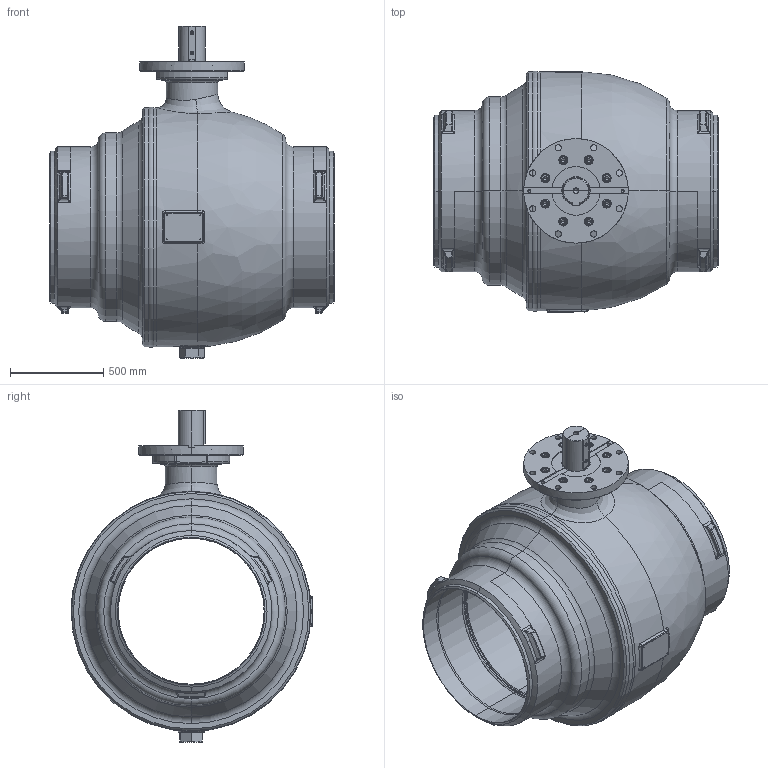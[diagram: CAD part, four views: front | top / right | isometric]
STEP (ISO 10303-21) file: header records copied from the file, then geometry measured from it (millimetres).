
FILE_DESCRIPTION((''),'2;1');
FILE_NAME('KHSVI_800_VVS_FR_WE','2026-01-27T14:14:33',('schwaba'),('KLINGER'),'CREO PARAMETRIC BY PTC INC, 2023014','CREO PARAMETRIC BY PTC INC, 2023014','');
FILE_SCHEMA(('CONFIG_CONTROL_DESIGN'));
Length unit declared in the file: millimetre
Products named in the file (1): KHSVI_800_VVS_FR_WE
Bounding box: 1524 x 1295.14 x 1778.5 mm (x, y, z)
Volume: 469679466.8 mm3; surface area: 22303524.8 mm2
Topology: 2 solids, 9 shells, 1893 faces, 4656 edges, 2840 vertices
Faces by surface type: plane 771, cylinder 414, torus 257, bspline 217, cone 192, sphere 42
Entity records: 113001 total; most frequent: CARTESIAN_POINT 70713, ORIENTED_EDGE 9216, DIRECTION 8350, EDGE_CURVE 4608, AXIS2_PLACEMENT_3D 3455, VERTEX_POINT 2840, EDGE_LOOP 2070, FACE_OUTER_BOUND 1893
